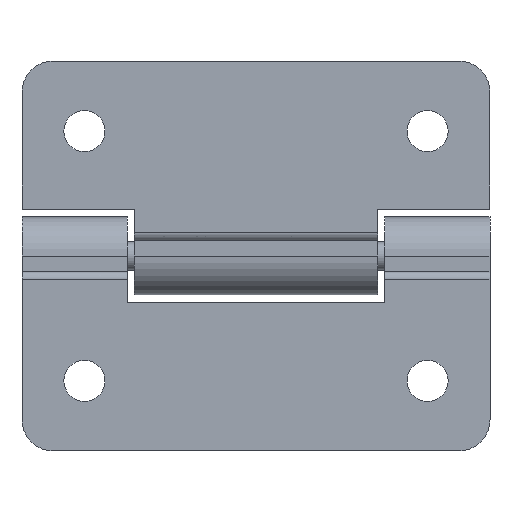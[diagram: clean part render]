
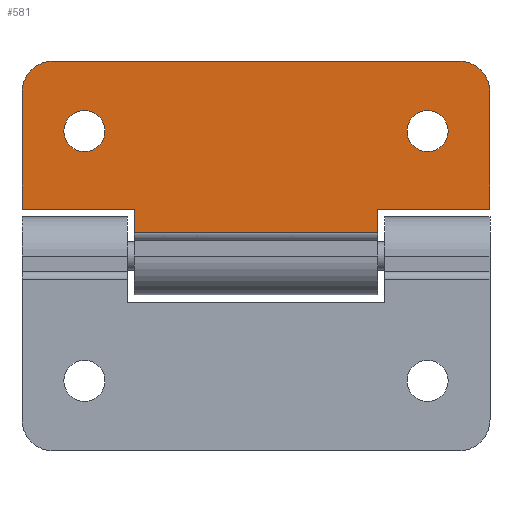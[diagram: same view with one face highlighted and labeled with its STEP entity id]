
A CAD part, front view. The second image highlights one B-rep face of the part: STEP entity #581.
In plain terms, the highlighted planar face has unit normal (0, -1, 0).
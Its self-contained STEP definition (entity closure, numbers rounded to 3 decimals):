
#6 = ORIENTED_EDGE ( 'NONE', *, *, #391, .T. ) ;
#18 = LINE ( 'NONE', #519, #773 ) ;
#22 = CARTESIAN_POINT ( 'NONE',  ( 11., -3., -8. ) ) ;
#34 = DIRECTION ( 'NONE',  ( 0., 0., 1. ) ) ;
#50 = CARTESIAN_POINT ( 'NONE',  ( 11., -3., -6.683 ) ) ;
#56 = EDGE_CURVE ( 'NONE', #414, #870, #1599, .T. ) ;
#59 = ORIENTED_EDGE ( 'NONE', *, *, #1811, .F. ) ;
#94 = LINE ( 'NONE', #799, #1856 ) ;
#107 = CIRCLE ( 'NONE', #1498, 1.317 ) ;
#119 = LINE ( 'NONE', #2191, #1021 ) ;
#128 = VERTEX_POINT ( 'NONE', #1174 ) ;
#156 = CARTESIAN_POINT ( 'NONE',  ( -11., -3., -8. ) ) ;
#158 = EDGE_CURVE ( 'NONE', #1178, #1503, #214, .T. ) ;
#202 = CARTESIAN_POINT ( 'NONE',  ( 7.8, -3., -3. ) ) ;
#214 = CIRCLE ( 'NONE', #1639, 1.317 ) ;
#235 = DIRECTION ( 'NONE',  ( 0., 0., 1. ) ) ;
#247 = ORIENTED_EDGE ( 'NONE', *, *, #689, .T. ) ;
#265 = VERTEX_POINT ( 'NONE', #1368 ) ;
#279 = ORIENTED_EDGE ( 'NONE', *, *, #903, .T. ) ;
#296 = EDGE_CURVE ( 'NONE', #870, #574, #1552, .T. ) ;
#304 = CARTESIAN_POINT ( 'NONE',  ( -15., -3., -3. ) ) ;
#319 = CARTESIAN_POINT ( 'NONE',  ( 15., -3., -1. ) ) ;
#336 = DIRECTION ( 'NONE',  ( 0., 0., 1. ) ) ;
#360 = ORIENTED_EDGE ( 'NONE', *, *, #1678, .F. ) ;
#387 = CARTESIAN_POINT ( 'NONE',  ( 7.8, -3., -3. ) ) ;
#391 = EDGE_CURVE ( 'NONE', #128, #1934, #1092, .T. ) ;
#412 = DIRECTION ( 'NONE',  ( 0., 0., -1. ) ) ;
#414 = VERTEX_POINT ( 'NONE', #202 ) ;
#428 = CARTESIAN_POINT ( 'NONE',  ( -13., -3., -10.5 ) ) ;
#462 = DIRECTION ( 'NONE',  ( 0., 0., 1. ) ) ;
#493 = DIRECTION ( 'NONE',  ( 0., 0., 1. ) ) ;
#510 = DIRECTION ( 'NONE',  ( -1., 0., 0. ) ) ;
#519 = CARTESIAN_POINT ( 'NONE',  ( -7.8, -3., -3. ) ) ;
#548 = VECTOR ( 'NONE', #510, 1000. ) ;
#552 = AXIS2_PLACEMENT_3D ( 'NONE', #428, #2223, #1657 ) ;
#571 = CARTESIAN_POINT ( 'NONE',  ( -11., -3., -6.683 ) ) ;
#574 = VERTEX_POINT ( 'NONE', #1642 ) ;
#581 = ADVANCED_FACE ( 'NONE', ( #1534, #1993, #839 ), #1138, .F. ) ;
#623 = EDGE_CURVE ( 'NONE', #1755, #1284, #2094, .T. ) ;
#653 = DIRECTION ( 'NONE',  ( 1., 0., 0. ) ) ;
#666 = CARTESIAN_POINT ( 'NONE',  ( -15., -3., -3. ) ) ;
#689 = EDGE_CURVE ( 'NONE', #1547, #265, #1674, .T. ) ;
#716 = DIRECTION ( 'NONE',  ( 0., -1., 0. ) ) ;
#757 = DIRECTION ( 'NONE',  ( 0., 1., 0. ) ) ;
#773 = VECTOR ( 'NONE', #1224, 1000. ) ;
#776 = VECTOR ( 'NONE', #412, 1000. ) ;
#799 = CARTESIAN_POINT ( 'NONE',  ( 15., -3., -12.5 ) ) ;
#801 = CARTESIAN_POINT ( 'NONE',  ( -11., -3., -8. ) ) ;
#839 = FACE_OUTER_BOUND ( 'NONE', #1701, .T. ) ;
#856 = DIRECTION ( 'NONE',  ( 0., 1., 0. ) ) ;
#870 = VERTEX_POINT ( 'NONE', #2151 ) ;
#889 = EDGE_CURVE ( 'NONE', #1978, #265, #1294, .T. ) ;
#898 = EDGE_LOOP ( 'NONE', ( #279, #6 ) ) ;
#903 = EDGE_CURVE ( 'NONE', #1934, #128, #107, .T. ) ;
#994 = DIRECTION ( 'NONE',  ( 0., 0., -1. ) ) ;
#1003 = ORIENTED_EDGE ( 'NONE', *, *, #623, .T. ) ;
#1012 = DIRECTION ( 'NONE',  ( 0., 1., 0. ) ) ;
#1020 = EDGE_CURVE ( 'NONE', #1070, #1058, #1615, .T. ) ;
#1021 = VECTOR ( 'NONE', #994, 1000. ) ;
#1044 = CARTESIAN_POINT ( 'NONE',  ( -13., -3., -12.5 ) ) ;
#1051 = VECTOR ( 'NONE', #34, 1000. ) ;
#1058 = VERTEX_POINT ( 'NONE', #1871 ) ;
#1070 = VERTEX_POINT ( 'NONE', #304 ) ;
#1092 = CIRCLE ( 'NONE', #2203, 1.317 ) ;
#1094 = ORIENTED_EDGE ( 'NONE', *, *, #1611, .T. ) ;
#1111 = CARTESIAN_POINT ( 'NONE',  ( 15., -3., -3. ) ) ;
#1138 = PLANE ( 'NONE',  #1530 ) ;
#1153 = DIRECTION ( 'NONE',  ( 0., 1., 0. ) ) ;
#1174 = CARTESIAN_POINT ( 'NONE',  ( 11., -3., -9.317 ) ) ;
#1178 = VERTEX_POINT ( 'NONE', #1406 ) ;
#1203 = AXIS2_PLACEMENT_3D ( 'NONE', #156, #856, #336 ) ;
#1211 = CARTESIAN_POINT ( 'NONE',  ( 13., -3., -10.5 ) ) ;
#1224 = DIRECTION ( 'NONE',  ( 0., 0., 1. ) ) ;
#1238 = ORIENTED_EDGE ( 'NONE', *, *, #889, .F. ) ;
#1284 = VERTEX_POINT ( 'NONE', #1044 ) ;
#1294 = LINE ( 'NONE', #1303, #776 ) ;
#1303 = CARTESIAN_POINT ( 'NONE',  ( 15., -3., -1. ) ) ;
#1331 = EDGE_CURVE ( 'NONE', #1503, #1178, #1858, .T. ) ;
#1368 = CARTESIAN_POINT ( 'NONE',  ( 15., -3., -10.5 ) ) ;
#1371 = EDGE_CURVE ( 'NONE', #1978, #414, #1449, .T. ) ;
#1406 = CARTESIAN_POINT ( 'NONE',  ( -11., -3., -9.317 ) ) ;
#1447 = CARTESIAN_POINT ( 'NONE',  ( 15., -3., -3. ) ) ;
#1449 = LINE ( 'NONE', #1111, #1923 ) ;
#1491 = DIRECTION ( 'NONE',  ( -1., 0., 0. ) ) ;
#1493 = AXIS2_PLACEMENT_3D ( 'NONE', #1211, #716, #1728 ) ;
#1498 = AXIS2_PLACEMENT_3D ( 'NONE', #1789, #1950, #2117 ) ;
#1503 = VERTEX_POINT ( 'NONE', #571 ) ;
#1530 = AXIS2_PLACEMENT_3D ( 'NONE', #319, #1012, #493 ) ;
#1534 = FACE_BOUND ( 'NONE', #1984, .T. ) ;
#1547 = VERTEX_POINT ( 'NONE', #1655 ) ;
#1552 = LINE ( 'NONE', #2226, #548 ) ;
#1599 = LINE ( 'NONE', #387, #1051 ) ;
#1611 = EDGE_CURVE ( 'NONE', #1070, #1755, #119, .T. ) ;
#1615 = LINE ( 'NONE', #666, #1714 ) ;
#1639 = AXIS2_PLACEMENT_3D ( 'NONE', #801, #1153, #462 ) ;
#1642 = CARTESIAN_POINT ( 'NONE',  ( -7.8, -3., -1.5 ) ) ;
#1655 = CARTESIAN_POINT ( 'NONE',  ( 13., -3., -12.5 ) ) ;
#1657 = DIRECTION ( 'NONE',  ( 0., 0., 1. ) ) ;
#1668 = ORIENTED_EDGE ( 'NONE', *, *, #1371, .T. ) ;
#1674 = CIRCLE ( 'NONE', #1493, 2. ) ;
#1678 = EDGE_CURVE ( 'NONE', #1547, #1284, #94, .T. ) ;
#1701 = EDGE_LOOP ( 'NONE', ( #2238, #2104, #59, #1855, #1094, #1003, #360, #247, #1238, #1668 ) ) ;
#1714 = VECTOR ( 'NONE', #653, 1000. ) ;
#1728 = DIRECTION ( 'NONE',  ( 0., 0., 1. ) ) ;
#1755 = VERTEX_POINT ( 'NONE', #1912 ) ;
#1789 = CARTESIAN_POINT ( 'NONE',  ( 11., -3., -8. ) ) ;
#1806 = DIRECTION ( 'NONE',  ( -1., 0., 0. ) ) ;
#1811 = EDGE_CURVE ( 'NONE', #1058, #574, #18, .T. ) ;
#1855 = ORIENTED_EDGE ( 'NONE', *, *, #1020, .F. ) ;
#1856 = VECTOR ( 'NONE', #1491, 1000. ) ;
#1858 = CIRCLE ( 'NONE', #1203, 1.317 ) ;
#1871 = CARTESIAN_POINT ( 'NONE',  ( -7.8, -3., -3. ) ) ;
#1912 = CARTESIAN_POINT ( 'NONE',  ( -15., -3., -10.5 ) ) ;
#1923 = VECTOR ( 'NONE', #1806, 1000. ) ;
#1934 = VERTEX_POINT ( 'NONE', #50 ) ;
#1940 = ORIENTED_EDGE ( 'NONE', *, *, #1331, .T. ) ;
#1950 = DIRECTION ( 'NONE',  ( 0., 1., 0. ) ) ;
#1978 = VERTEX_POINT ( 'NONE', #1447 ) ;
#1984 = EDGE_LOOP ( 'NONE', ( #1940, #2103 ) ) ;
#1993 = FACE_BOUND ( 'NONE', #898, .T. ) ;
#2094 = CIRCLE ( 'NONE', #552, 2. ) ;
#2103 = ORIENTED_EDGE ( 'NONE', *, *, #158, .T. ) ;
#2104 = ORIENTED_EDGE ( 'NONE', *, *, #296, .T. ) ;
#2117 = DIRECTION ( 'NONE',  ( 0., 0., 1. ) ) ;
#2151 = CARTESIAN_POINT ( 'NONE',  ( 7.8, -3., -1.5 ) ) ;
#2191 = CARTESIAN_POINT ( 'NONE',  ( -15., -3., -1. ) ) ;
#2203 = AXIS2_PLACEMENT_3D ( 'NONE', #22, #757, #235 ) ;
#2223 = DIRECTION ( 'NONE',  ( 0., -1., 0. ) ) ;
#2226 = CARTESIAN_POINT ( 'NONE',  ( 15., -3., -1.5 ) ) ;
#2238 = ORIENTED_EDGE ( 'NONE', *, *, #56, .T. ) ;
